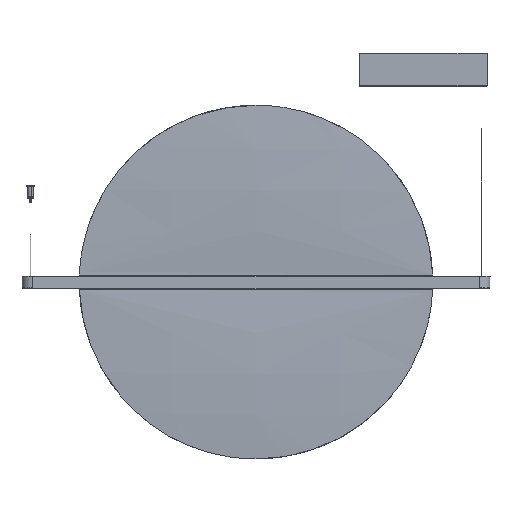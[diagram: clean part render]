
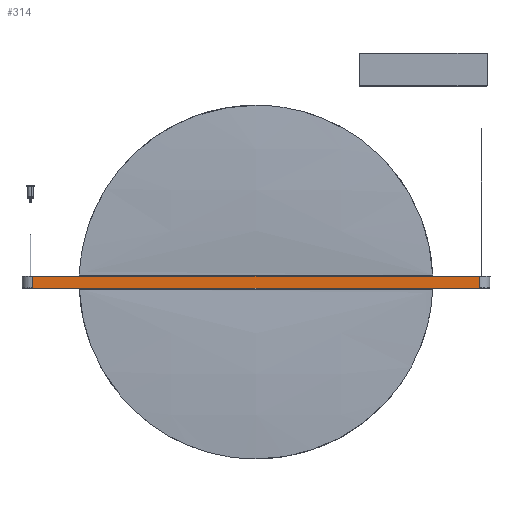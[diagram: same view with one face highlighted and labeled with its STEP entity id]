
A CAD part, front view. The second image highlights one B-rep face of the part: STEP entity #314.
In plain terms, the highlighted planar face has unit normal (0, -1, 0).
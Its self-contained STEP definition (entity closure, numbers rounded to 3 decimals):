
#314=ADVANCED_FACE('',(#833),#8637,.T.);
#833=FACE_OUTER_BOUND('',#1363,.T.);
#1363=EDGE_LOOP('',(#2898,#2899,#2900,#2901));
#2898=ORIENTED_EDGE('',*,*,#5187,.F.);
#2899=ORIENTED_EDGE('',*,*,#5415,.T.);
#2900=ORIENTED_EDGE('',*,*,#5116,.F.);
#2901=ORIENTED_EDGE('',*,*,#5401,.F.);
#5116=EDGE_CURVE('',#7992,#7993,#6904,.T.);
#5187=EDGE_CURVE('',#8124,#8125,#6971,.T.);
#5401=EDGE_CURVE('',#8125,#7992,#7090,.T.);
#5415=EDGE_CURVE('',#8124,#7993,#7095,.T.);
#6904=B_SPLINE_CURVE_WITH_KNOTS('',1,(#16353,#16354),.UNSPECIFIED.,.F.,
 .F.,(2,2),(0.,26.8),.UNSPECIFIED.);
#6971=B_SPLINE_CURVE_WITH_KNOTS('',1,(#16499,#16500),.UNSPECIFIED.,.F.,
 .F.,(2,2),(0.,26.8),.UNSPECIFIED.);
#7090=B_SPLINE_CURVE_WITH_KNOTS('',1,(#17022,#17023),.UNSPECIFIED.,.F.,
 .F.,(2,2),(0.,1010.),.UNSPECIFIED.);
#7095=B_SPLINE_CURVE_WITH_KNOTS('',1,(#17059,#17060),.UNSPECIFIED.,.F.,
 .F.,(2,2),(-1010.,0.),.UNSPECIFIED.);
#7992=VERTEX_POINT('',#15932);
#7993=VERTEX_POINT('',#15933);
#8124=VERTEX_POINT('',#16064);
#8125=VERTEX_POINT('',#16065);
#8637=PLANE('',#10035);
#10035=AXIS2_PLACEMENT_3D('',#15662,#10571,$);
#10571=DIRECTION('',(0.,-1.,0.));
#15662=CARTESIAN_POINT('',(-606.012,-25.451,16.092));
#15932=CARTESIAN_POINT('',(-505.,-25.451,-13.4));
#15933=CARTESIAN_POINT('',(-505.,-25.451,13.4));
#16064=CARTESIAN_POINT('',(505.,-25.451,13.4));
#16065=CARTESIAN_POINT('',(505.,-25.451,-13.4));
#16353=CARTESIAN_POINT('',(-505.,-25.451,-13.4));
#16354=CARTESIAN_POINT('',(-505.,-25.451,13.4));
#16499=CARTESIAN_POINT('',(505.,-25.451,13.4));
#16500=CARTESIAN_POINT('',(505.,-25.451,-13.4));
#17022=CARTESIAN_POINT('',(505.,-25.451,-13.4));
#17023=CARTESIAN_POINT('',(-505.,-25.451,-13.4));
#17059=CARTESIAN_POINT('',(505.,-25.451,13.4));
#17060=CARTESIAN_POINT('',(-505.,-25.451,13.4));
